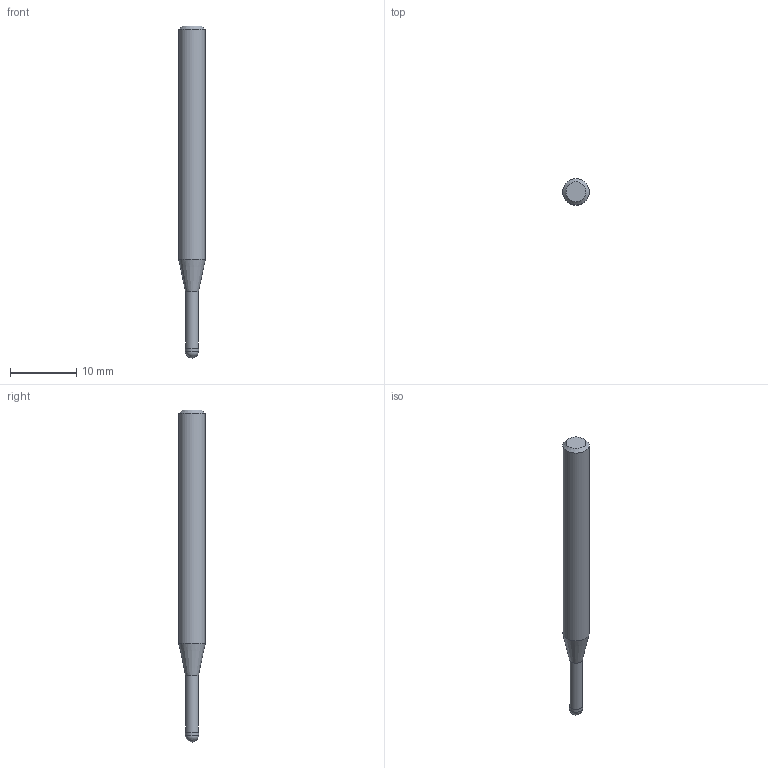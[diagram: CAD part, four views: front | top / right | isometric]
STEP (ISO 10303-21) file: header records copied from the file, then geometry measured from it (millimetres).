
FILE_DESCRIPTION((''),'2;1');
FILE_NAME('C:\Users\nsx150\AppData\Local\Temp\Mastercam 2021\ZXBT0ST9RL\TEMP.step','2021-06-25T11:03:10',(''),(''),'STEP Write','Mastercam 2021 ... CNC Software, Inc.','');
FILE_SCHEMA(('AUTOMOTIVE_DESIGN'));
Length unit declared in the file: millimetre
Products named in the file (1): None
Bounding box: 4 x 4 x 50 mm (x, y, z)
Volume: 504 mm3; surface area: 563.9 mm2
Topology: 2 solids, 2 shells, 9 faces, 14 edges, 8 vertices
Faces by surface type: plane 3, cylinder 3, cone 2, sphere 1
Full cylindrical faces by diameter (mm): 1.94 x1, 2 x1, 4 x1
Entity records: 211 total; most frequent: DIRECTION 36, CARTESIAN_POINT 25, AXIS2_PLACEMENT_3D 18, ORIENTED_EDGE 14, EDGE_LOOP 14, STYLED_ITEM 12, ADVANCED_FACE 9, FACE_BOUND 8
